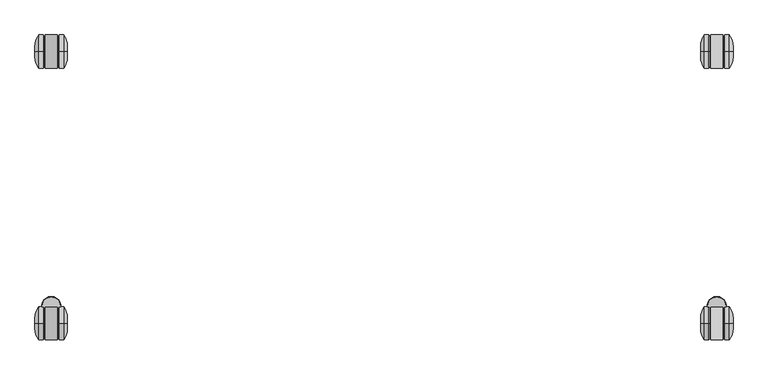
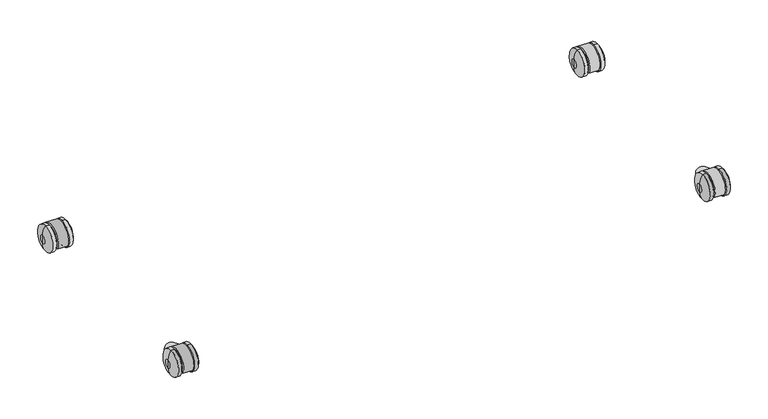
"""IFC4 building model written with IfcOpenShell, lengths in millimetres: furniture geometry, SmithSystem_AM_Table_Education_Elemental_NestAndFold_24D : 24D x 60W."""

from ifc_helpers import new_model, si_unit, point, frame, frame_2d, origin, place, context, project, spatial, polyline, circle_curve, ellipse_curve, trimmed, segment, composite_curve, outline, extrude, source, transform, mapped, element, save
from ifc_brep_helpers import plane_surface, cylinder_surface, revolved_surface, advanced_brep


def furniture_b1fba1ff(model_context):
    return source(origin(), model_context, "Body", "SolidModel", [
        extrude(outline(composite_curve([segment(trimmed(circle_curve(frame_2d((19.6281289, -2.9116942)), 19.8429183), [point((39.2562578, 0.0))], [point((0.0, 0.0))], False, "CARTESIAN"), True, "CONTINUOUS"), segment(polyline([(0.0, 0.0), (39.2562578, 0.0)]), True, "CONTINUOUS")], self_intersect=False)), frame((1475.9610423, -531.202391, 35.4234949), z_axis=(0.0, -0.3384834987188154, 0.9409723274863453), x_axis=(-1.0, 0.0, 0.0)), (0.0, 0.0, 1.0), 5.0798819),
        extrude(outline(composite_curve([segment(polyline([(1388.6658268, 0.0), (1427.9220846, 0.0)]), True, "CONTINUOUS"), segment(trimmed(circle_curve(frame_2d((1408.2939557, -2.9116942)), 19.8429183), [point((1427.9220846, 0.0))], [point((1388.6658268, 0.0))], False, "CARTESIAN"), True, "CONTINUOUS")], self_intersect=False)), frame((1475.9610423, -531.202391, 35.4234949), z_axis=(0.0, -0.3384834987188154, 0.9409723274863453), x_axis=(-1.0, 0.0, 0.0)), (0.0, 0.0, 1.0), 5.0798819),
        extrude(outline(composite_curve([segment(polyline([(-534.3716582, 19.392668), (-597.1174044, 19.392668)]), True, "CONTINUOUS"), segment(trimmed(circle_curve(frame_2d((-565.7445313, 34.2990606)), 34.7341), [point((-597.1174044, 19.392668))], [point((-534.3716582, 19.392668))], False, "CARTESIAN"), True, "CONTINUOUS")], self_intersect=False)), frame((54.6490652, 0.0, 0.0), z_axis=(1.0, 0.0, 0.0), x_axis=(0.0, 1.0, 0.0)), (0.0, 0.0, 1.0), 26.0360428),
        extrude(outline(composite_curve([segment(polyline([(32.7611544, 19.392668), (-29.9845918, 19.392668)]), True, "CONTINUOUS"), segment(trimmed(circle_curve(frame_2d((1.3882813, 34.2990606)), 34.7341), [point((-29.9845918, 19.392668))], [point((32.7611544, 19.392668))], False, "CARTESIAN"), True, "CONTINUOUS")], self_intersect=False)), frame((54.6490652, 0.0, 0.0), z_axis=(1.0, 0.0, 0.0), x_axis=(0.0, 1.0, 0.0)), (0.0, 0.0, 1.0), 26.0360428),
        extrude(outline(composite_curve([segment(polyline([(-534.3716582, 19.392668), (-597.1174044, 19.392668)]), True, "CONTINUOUS"), segment(trimmed(circle_curve(frame_2d((-565.7445313, 34.2990606)), 34.7341), [point((-597.1174044, 19.392668))], [point((-534.3716582, 19.392668))], False, "CARTESIAN"), True, "CONTINUOUS")], self_intersect=False)), frame((1443.314892, 0.0, 0.0), z_axis=(1.0, 0.0, 0.0), x_axis=(0.0, 1.0, 0.0)), (0.0, 0.0, 1.0), 26.0360428),
        extrude(outline(composite_curve([segment(polyline([(32.7611544, 19.392668), (-29.9845918, 19.392668)]), True, "CONTINUOUS"), segment(trimmed(circle_curve(frame_2d((1.3882813, 34.2990606)), 34.7341), [point((-29.9845918, 19.392668))], [point((32.7611544, 19.392668))], False, "CARTESIAN"), True, "CONTINUOUS")], self_intersect=False)), frame((1443.314892, 0.0, 0.0), z_axis=(1.0, 0.0, 0.0), x_axis=(0.0, 1.0, 0.0)), (0.0, 0.0, 1.0), 26.0360428),
        advanced_brep(
        [(1441.7769566, 1.3882813, 34.3697295), (1441.7769566, 1.3882813, 66.3180847), (1441.7769566, 1.3882813, 2.4213744), (1439.6062544, 1.3882813, 69.0331606), (1439.6062544, 1.3882813, -0.2937015), (1430.6015712, 1.3882813, 69.0331606), (1430.6015712, 1.3882813, -0.2937015), (1422.6841685, 1.3882813, 45.9515492), (1422.6841685, 1.3882813, 22.7879099), (1422.6841685, 1.3882813, 34.3697295)],
        [
            (0, 1),
            (1, 2, circle_curve(frame((1441.7769566, 1.3882813, 34.3697295), z_axis=(1.0, 0.0, 0.0), x_axis=(0.0, 0.0, 1.0)), 31.9483552)),
            (2, 0),
            (2, 1, circle_curve(frame((1441.7769566, 1.3882813, 34.3697295), z_axis=(1.0, 0.0, 0.0), x_axis=(0.0, 0.0, 1.0)), 31.9483552)),
            (1, 3),
            (3, 4, circle_curve(frame((1439.6062544, 1.3882813, 34.3697295), z_axis=(1.0, 0.0, 0.0), x_axis=(0.0, 0.0, 1.0)), 34.6634311)),
            (4, 2),
            (4, 3, circle_curve(frame((1439.6062544, 1.3882813, 34.3697295), z_axis=(1.0, 0.0, 0.0), x_axis=(0.0, 0.0, 1.0)), 34.6634311)),
            (3, 5),
            (5, 6, circle_curve(frame((1430.6015712, 1.3882813, 34.3697295), z_axis=(1.0, 0.0, 0.0), x_axis=(0.0, 0.0, 1.0)), 34.6634311)),
            (6, 4),
            (6, 5, circle_curve(frame((1430.6015712, 1.3882813, 34.3697295), z_axis=(1.0, 0.0, 0.0), x_axis=(0.0, 0.0, 1.0)), 34.6634311)),
            (5, 7, circle_curve(frame((1460.2877916, 1.3882813, 45.9515492), z_axis=(0.0, -1.0, 0.0), x_axis=(1.0, 0.0, 0.0)), 37.6036231)),
            (7, 8, circle_curve(frame((1422.6841685, 1.3882813, 34.3697295), z_axis=(1.0, 0.0, 0.0), x_axis=(0.0, 0.0, 1.0)), 11.5818197)),
            (8, 6, circle_curve(frame((1460.2877916, 1.3882813, 22.7879099), z_axis=(0.0, -1.0, 0.0), x_axis=(1.0, 0.0, 0.0)), 37.6036231)),
            (8, 7, circle_curve(frame((1422.6841685, 1.3882813, 34.3697295), z_axis=(1.0, 0.0, 0.0), x_axis=(0.0, 0.0, 1.0)), 11.5818197)),
            (7, 9),
            (9, 8),
        ],
        [
            plane_surface(frame((1441.7769566, 1.3882813, 34.3697295), z_axis=(1.0, 0.0, 0.0), x_axis=(0.0, 0.0, 1.0))),
            revolved_surface(polyline([(1439.6062544, 1.3882813, 69.0331606), (1441.7769566, 1.3882813, 66.3180847)]), (1422.6841685, 1.3882813, 34.3697295), (1.0, 0.0, 0.0)),
            cylinder_surface(frame((1422.6841685, 1.3882813, 34.3697295), z_axis=(1.0, 0.0, 0.0), x_axis=(0.0, 0.0, 1.0)), 34.6634311),
            revolved_surface(trimmed(ellipse_curve(frame((1460.2877916, 1.3882813, 45.9515492), z_axis=(0.0, 1.0, 0.0), x_axis=(1.0, 0.0, 0.0)), 37.6036231, 37.6036231), [point((1422.6841685, 1.3882813, 45.9515492))], [point((1430.6015712, 1.3882813, 69.0331606))], True, "CARTESIAN"), (1422.6841685, 1.3882813, 34.3697295), (1.0, 0.0, 0.0)),
            plane_surface(frame((1422.6841685, 1.3882813, 34.3697295), z_axis=(-1.0, 0.0, 0.0), x_axis=(0.0, 0.0, 1.0))),
        ],
        [
            (0, [[1, 2, 3]]),
            (0, [[-3, 4, -1]]),
            (1, [[-2, 5, 6, 7]]),
            (1, [[-4, -7, 8, -5]]),
            (2, [[-6, 9, 10, 11]]),
            (2, [[-8, -11, 12, -9]]),
            (3, [[-10, 13, 14, 15]]),
            (3, [[-12, -15, 16, -13]]),
            (4, [[-14, 17, 18]]),
            (4, [[-16, -18, -17]]),
        ],
    ),
        advanced_brep(
        [(1490.4247373, 1.3882813, 34.3697295), (1490.4247373, 1.3882813, 45.9515492), (1490.4247373, 1.3882813, 22.7879099), (1482.5073346, 1.3882813, 69.0331606), (1482.5073346, 1.3882813, -0.2937015), (1473.5026514, 1.3882813, 69.0331606), (1473.5026514, 1.3882813, -0.2937015), (1471.3319492, 1.3882813, 66.3180847), (1471.3319492, 1.3882813, 2.4213744), (1471.3319492, 1.3882813, 34.3697295)],
        [
            (0, 1),
            (1, 2, circle_curve(frame((1490.4247373, 1.3882813, 34.3697295), z_axis=(1.0, 0.0, 0.0), x_axis=(0.0, 0.0, 1.0)), 11.5818197)),
            (2, 0),
            (2, 1, circle_curve(frame((1490.4247373, 1.3882813, 34.3697295), z_axis=(1.0, 0.0, 0.0), x_axis=(0.0, 0.0, 1.0)), 11.5818197)),
            (1, 3, circle_curve(frame((1452.8211142, 1.3882813, 45.9515492), z_axis=(0.0, -1.0, 0.0), x_axis=(1.0, 0.0, 0.0)), 37.6036231)),
            (3, 4, circle_curve(frame((1482.5073346, 1.3882813, 34.3697295), z_axis=(1.0, 0.0, 0.0), x_axis=(0.0, 0.0, 1.0)), 34.6634311)),
            (4, 2, circle_curve(frame((1452.8211142, 1.3882813, 22.7879099), z_axis=(0.0, -1.0, 0.0), x_axis=(1.0, 0.0, 0.0)), 37.6036231)),
            (4, 3, circle_curve(frame((1482.5073346, 1.3882813, 34.3697295), z_axis=(1.0, 0.0, 0.0), x_axis=(0.0, 0.0, 1.0)), 34.6634311)),
            (3, 5),
            (5, 6, circle_curve(frame((1473.5026514, 1.3882813, 34.3697295), z_axis=(1.0, 0.0, 0.0), x_axis=(0.0, 0.0, 1.0)), 34.6634311)),
            (6, 4),
            (6, 5, circle_curve(frame((1473.5026514, 1.3882813, 34.3697295), z_axis=(1.0, 0.0, 0.0), x_axis=(0.0, 0.0, 1.0)), 34.6634311)),
            (5, 7),
            (7, 8, circle_curve(frame((1471.3319492, 1.3882813, 34.3697295), z_axis=(1.0, 0.0, 0.0), x_axis=(0.0, 0.0, 1.0)), 31.9483552)),
            (8, 6),
            (8, 7, circle_curve(frame((1471.3319492, 1.3882813, 34.3697295), z_axis=(1.0, 0.0, 0.0), x_axis=(0.0, 0.0, 1.0)), 31.9483552)),
            (7, 9),
            (9, 8),
        ],
        [
            plane_surface(frame((1490.4247373, 1.3882813, 34.3697295), z_axis=(1.0, 0.0, 0.0), x_axis=(0.0, 0.0, 1.0))),
            revolved_surface(trimmed(ellipse_curve(frame((1452.8211142, 1.3882813, 45.9515492), z_axis=(0.0, 1.0, 0.0), x_axis=(1.0, 0.0, 0.0)), 37.6036231, 37.6036231), [point((1482.5073346, 1.3882813, 69.0331606))], [point((1490.4247373, 1.3882813, 45.9515492))], True, "CARTESIAN"), (1422.6841685, 1.3882813, 34.3697295), (1.0, 0.0, 0.0)),
            cylinder_surface(frame((1422.6841685, 1.3882813, 34.3697295), z_axis=(1.0, 0.0, 0.0), x_axis=(0.0, 0.0, 1.0)), 34.6634311),
            revolved_surface(polyline([(1471.3319492, 1.3882813, 66.3180847), (1473.5026514, 1.3882813, 69.0331606)]), (1422.6841685, 1.3882813, 34.3697295), (1.0, 0.0, 0.0)),
            plane_surface(frame((1471.3319492, 1.3882813, 34.3697295), z_axis=(-1.0, 0.0, 0.0), x_axis=(0.0, 0.0, 1.0))),
        ],
        [
            (0, [[1, 2, 3]]),
            (0, [[-3, 4, -1]]),
            (1, [[-2, 5, 6, 7]]),
            (1, [[-4, -7, 8, -5]]),
            (2, [[-6, 9, 10, 11]]),
            (2, [[-8, -11, 12, -9]]),
            (3, [[-10, 13, 14, 15]]),
            (3, [[-12, -15, 16, -13]]),
            (4, [[-14, 17, 18]]),
            (4, [[-16, -18, -17]]),
        ],
    ),
        advanced_brep(
        [(101.3158315, 1.3882813, 34.3697295), (101.3158315, 1.3882813, 45.9515492), (101.3158315, 1.3882813, 22.7879099), (93.3984288, 1.3882813, 69.0331606), (93.3984288, 1.3882813, -0.2937015), (84.3937456, 1.3882813, 69.0331606), (84.3937456, 1.3882813, -0.2937015), (82.2230434, 1.3882813, 66.3180847), (82.2230434, 1.3882813, 2.4213744), (82.2230434, 1.3882813, 34.3697295)],
        [
            (0, 1),
            (1, 2, circle_curve(frame((101.3158315, 1.3882813, 34.3697295), z_axis=(1.0, 0.0, 0.0), x_axis=(0.0, 0.0, 1.0)), 11.5818197)),
            (2, 0),
            (2, 1, circle_curve(frame((101.3158315, 1.3882813, 34.3697295), z_axis=(1.0, 0.0, 0.0), x_axis=(0.0, 0.0, 1.0)), 11.5818197)),
            (1, 3, circle_curve(frame((63.7122084, 1.3882813, 45.9515492), z_axis=(0.0, -1.0, 0.0), x_axis=(1.0, 0.0, 0.0)), 37.6036231)),
            (3, 4, circle_curve(frame((93.3984288, 1.3882813, 34.3697295), z_axis=(1.0, 0.0, 0.0), x_axis=(0.0, 0.0, 1.0)), 34.6634311)),
            (4, 2, circle_curve(frame((63.7122084, 1.3882813, 22.7879099), z_axis=(0.0, -1.0, 0.0), x_axis=(1.0, 0.0, 0.0)), 37.6036231)),
            (4, 3, circle_curve(frame((93.3984288, 1.3882813, 34.3697295), z_axis=(1.0, 0.0, 0.0), x_axis=(0.0, 0.0, 1.0)), 34.6634311)),
            (3, 5),
            (5, 6, circle_curve(frame((84.3937456, 1.3882813, 34.3697295), z_axis=(1.0, 0.0, 0.0), x_axis=(0.0, 0.0, 1.0)), 34.6634311)),
            (6, 4),
            (6, 5, circle_curve(frame((84.3937456, 1.3882813, 34.3697295), z_axis=(1.0, 0.0, 0.0), x_axis=(0.0, 0.0, 1.0)), 34.6634311)),
            (5, 7),
            (7, 8, circle_curve(frame((82.2230434, 1.3882813, 34.3697295), z_axis=(1.0, 0.0, 0.0), x_axis=(0.0, 0.0, 1.0)), 31.9483552)),
            (8, 6),
            (8, 7, circle_curve(frame((82.2230434, 1.3882813, 34.3697295), z_axis=(1.0, 0.0, 0.0), x_axis=(0.0, 0.0, 1.0)), 31.9483552)),
            (7, 9),
            (9, 8),
        ],
        [
            plane_surface(frame((101.3158315, 1.3882813, 34.3697295), z_axis=(1.0, 0.0, 0.0), x_axis=(0.0, 0.0, 1.0))),
            revolved_surface(trimmed(ellipse_curve(frame((63.7122084, 1.3882813, 45.9515492), z_axis=(0.0, 1.0, 0.0), x_axis=(1.0, 0.0, 0.0)), 37.6036231, 37.6036231), [point((93.3984288, 1.3882813, 69.0331606))], [point((101.3158315, 1.3882813, 45.9515492))], True, "CARTESIAN"), (1422.6841685, 1.3882813, 34.3697295), (1.0, 0.0, 0.0)),
            cylinder_surface(frame((1422.6841685, 1.3882813, 34.3697295), z_axis=(1.0, 0.0, 0.0), x_axis=(0.0, 0.0, 1.0)), 34.6634311),
            revolved_surface(polyline([(82.2230434, 1.3882813, 66.3180847), (84.3937456, 1.3882813, 69.0331606)]), (1422.6841685, 1.3882813, 34.3697295), (1.0, 0.0, 0.0)),
            plane_surface(frame((82.2230434, 1.3882813, 34.3697295), z_axis=(-1.0, 0.0, 0.0), x_axis=(0.0, 0.0, 1.0))),
        ],
        [
            (0, [[1, 2, 3]]),
            (0, [[-3, 4, -1]]),
            (1, [[-2, 5, 6, 7]]),
            (1, [[-4, -7, 8, -5]]),
            (2, [[-6, 9, 10, 11]]),
            (2, [[-8, -11, 12, -9]]),
            (3, [[-10, 13, 14, 15]]),
            (3, [[-12, -15, 16, -13]]),
            (4, [[-14, 17, 18]]),
            (4, [[-16, -18, -17]]),
        ],
    ),
        advanced_brep(
        [(52.6680508, 1.3882813, 34.3697295), (52.6680508, 1.3882813, 66.3180847), (52.6680508, 1.3882813, 2.4213744), (50.4973486, 1.3882813, 69.0331606), (50.4973486, 1.3882813, -0.2937015), (41.4926654, 1.3882813, 69.0331606), (41.4926654, 1.3882813, -0.2937015), (33.5752627, 1.3882813, 45.9515492), (33.5752627, 1.3882813, 22.7879099), (33.5752627, 1.3882813, 34.3697295)],
        [
            (0, 1),
            (1, 2, circle_curve(frame((52.6680508, 1.3882813, 34.3697295), z_axis=(1.0, 0.0, 0.0), x_axis=(0.0, 0.0, 1.0)), 31.9483552)),
            (2, 0),
            (2, 1, circle_curve(frame((52.6680508, 1.3882813, 34.3697295), z_axis=(1.0, 0.0, 0.0), x_axis=(0.0, 0.0, 1.0)), 31.9483552)),
            (1, 3),
            (3, 4, circle_curve(frame((50.4973486, 1.3882813, 34.3697295), z_axis=(1.0, 0.0, 0.0), x_axis=(0.0, 0.0, 1.0)), 34.6634311)),
            (4, 2),
            (4, 3, circle_curve(frame((50.4973486, 1.3882813, 34.3697295), z_axis=(1.0, 0.0, 0.0), x_axis=(0.0, 0.0, 1.0)), 34.6634311)),
            (3, 5),
            (5, 6, circle_curve(frame((41.4926654, 1.3882813, 34.3697295), z_axis=(1.0, 0.0, 0.0), x_axis=(0.0, 0.0, 1.0)), 34.6634311)),
            (6, 4),
            (6, 5, circle_curve(frame((41.4926654, 1.3882813, 34.3697295), z_axis=(1.0, 0.0, 0.0), x_axis=(0.0, 0.0, 1.0)), 34.6634311)),
            (5, 7, circle_curve(frame((71.1788858, 1.3882813, 45.9515492), z_axis=(0.0, -1.0, 0.0), x_axis=(1.0, 0.0, 0.0)), 37.6036231)),
            (7, 8, circle_curve(frame((33.5752627, 1.3882813, 34.3697295), z_axis=(1.0, 0.0, 0.0), x_axis=(0.0, 0.0, 1.0)), 11.5818197)),
            (8, 6, circle_curve(frame((71.1788858, 1.3882813, 22.7879099), z_axis=(0.0, -1.0, 0.0), x_axis=(1.0, 0.0, 0.0)), 37.6036231)),
            (8, 7, circle_curve(frame((33.5752627, 1.3882813, 34.3697295), z_axis=(1.0, 0.0, 0.0), x_axis=(0.0, 0.0, 1.0)), 11.5818197)),
            (7, 9),
            (9, 8),
        ],
        [
            plane_surface(frame((52.6680508, 1.3882813, 34.3697295), z_axis=(1.0, 0.0, 0.0), x_axis=(0.0, 0.0, 1.0))),
            revolved_surface(polyline([(50.4973486, 1.3882813, 69.0331606), (52.6680508, 1.3882813, 66.3180847)]), (1422.6841685, 1.3882813, 34.3697295), (1.0, 0.0, 0.0)),
            cylinder_surface(frame((1422.6841685, 1.3882813, 34.3697295), z_axis=(1.0, 0.0, 0.0), x_axis=(0.0, 0.0, 1.0)), 34.6634311),
            revolved_surface(trimmed(ellipse_curve(frame((71.1788858, 1.3882813, 45.9515492), z_axis=(0.0, 1.0, 0.0), x_axis=(1.0, 0.0, 0.0)), 37.6036231, 37.6036231), [point((33.5752627, 1.3882813, 45.9515492))], [point((41.4926654, 1.3882813, 69.0331606))], True, "CARTESIAN"), (1422.6841685, 1.3882813, 34.3697295), (1.0, 0.0, 0.0)),
            plane_surface(frame((33.5752627, 1.3882813, 34.3697295), z_axis=(-1.0, 0.0, 0.0), x_axis=(0.0, 0.0, 1.0))),
        ],
        [
            (0, [[1, 2, 3]]),
            (0, [[-3, 4, -1]]),
            (1, [[-2, 5, 6, 7]]),
            (1, [[-4, -7, 8, -5]]),
            (2, [[-6, 9, 10, 11]]),
            (2, [[-8, -11, 12, -9]]),
            (3, [[-10, 13, 14, 15]]),
            (3, [[-12, -15, 16, -13]]),
            (4, [[-14, 17, 18]]),
            (4, [[-16, -18, -17]]),
        ],
    ),
        advanced_brep(
        [(1441.7769566, -565.7453125, 2.4213744), (1441.7769566, -565.7453125, 66.3180847), (1441.7769566, -565.7453125, 34.3697295), (1439.6062544, -565.7453125, -0.2937015), (1439.6062544, -565.7453125, 69.0331606), (1430.6015712, -565.7453125, -0.2937015), (1430.6015712, -565.7453125, 69.0331606), (1422.6841685, -565.7453125, 22.7879099), (1422.6841685, -565.7453125, 45.9515492), (1422.6841685, -565.7453125, 34.3697295)],
        [
            (0, 1, circle_curve(frame((1441.7769566, -565.7453125, 34.3697295), z_axis=(1.0, 0.0, 0.0), x_axis=(0.0, 0.0, 1.0)), 31.9483552)),
            (1, 2),
            (2, 0),
            (1, 0, circle_curve(frame((1441.7769566, -565.7453125, 34.3697295), z_axis=(1.0, 0.0, 0.0), x_axis=(0.0, 0.0, 1.0)), 31.9483552)),
            (3, 4, circle_curve(frame((1439.6062544, -565.7453125, 34.3697295), z_axis=(1.0, 0.0, 0.0), x_axis=(0.0, 0.0, 1.0)), 34.6634311)),
            (4, 1),
            (0, 3),
            (4, 3, circle_curve(frame((1439.6062544, -565.7453125, 34.3697295), z_axis=(1.0, 0.0, 0.0), x_axis=(0.0, 0.0, 1.0)), 34.6634311)),
            (5, 6, circle_curve(frame((1430.6015712, -565.7453125, 34.3697295), z_axis=(1.0, 0.0, 0.0), x_axis=(0.0, 0.0, 1.0)), 34.6634311)),
            (6, 4),
            (3, 5),
            (6, 5, circle_curve(frame((1430.6015712, -565.7453125, 34.3697295), z_axis=(1.0, 0.0, 0.0), x_axis=(0.0, 0.0, 1.0)), 34.6634311)),
            (7, 8, circle_curve(frame((1422.6841685, -565.7453125, 34.3697295), z_axis=(1.0, 0.0, 0.0), x_axis=(0.0, 0.0, 1.0)), 11.5818197)),
            (8, 6, circle_curve(frame((1460.2877916, -565.7453125, 45.9515492), z_axis=(0.0, 1.0, 0.0), x_axis=(1.0, 0.0, 0.0)), 37.6036231)),
            (5, 7, circle_curve(frame((1460.2877916, -565.7453125, 22.7879099), z_axis=(0.0, 1.0, 0.0), x_axis=(1.0, 0.0, 0.0)), 37.6036231)),
            (8, 7, circle_curve(frame((1422.6841685, -565.7453125, 34.3697295), z_axis=(1.0, 0.0, 0.0), x_axis=(0.0, 0.0, 1.0)), 11.5818197)),
            (9, 8),
            (7, 9),
        ],
        [
            plane_surface(frame((1441.7769566, -565.7453125, 34.3697295), z_axis=(1.0, 0.0, 0.0), x_axis=(0.0, 0.0, 1.0))),
            revolved_surface(polyline([(1441.7769566, -565.7453125, 66.3180847), (1439.6062544, -565.7453125, 69.0331606)]), (1422.6841685, -565.7453125, 34.3697295), (-1.0, 0.0, 0.0)),
            cylinder_surface(frame((1422.6841685, -565.7453125, 34.3697295), z_axis=(-1.0, 0.0, 0.0), x_axis=(0.0, 0.0, 1.0)), 34.6634311),
            revolved_surface(trimmed(ellipse_curve(frame((1460.2877916, -565.7453125, 45.9515492), z_axis=(0.0, -1.0, 0.0), x_axis=(1.0, 0.0, 0.0)), 37.6036231, 37.6036231), [point((1430.6015712, -565.7453125, 69.0331606))], [point((1422.6841685, -565.7453125, 45.9515492))], True, "CARTESIAN"), (1422.6841685, -565.7453125, 34.3697295), (-1.0, 0.0, 0.0)),
            plane_surface(frame((1422.6841685, -565.7453125, 34.3697295), z_axis=(-1.0, 0.0, 0.0), x_axis=(0.0, 0.0, 1.0))),
        ],
        [
            (0, [[1, 2, 3]]),
            (0, [[4, -3, -2]]),
            (1, [[5, 6, -1, 7]]),
            (1, [[8, -7, -4, -6]]),
            (2, [[9, 10, -5, 11]]),
            (2, [[12, -11, -8, -10]]),
            (3, [[13, 14, -9, 15]]),
            (3, [[16, -15, -12, -14]]),
            (4, [[17, -13, 18]]),
            (4, [[-18, -16, -17]]),
        ],
    ),
        advanced_brep(
        [(1490.4247373, -565.7453125, 22.7879099), (1490.4247373, -565.7453125, 45.9515492), (1490.4247373, -565.7453125, 34.3697295), (1482.5073346, -565.7453125, -0.2937015), (1482.5073346, -565.7453125, 69.0331606), (1473.5026514, -565.7453125, -0.2937015), (1473.5026514, -565.7453125, 69.0331606), (1471.3319492, -565.7453125, 2.4213744), (1471.3319492, -565.7453125, 66.3180847), (1471.3319492, -565.7453125, 34.3697295)],
        [
            (0, 1, circle_curve(frame((1490.4247373, -565.7453125, 34.3697295), z_axis=(1.0, 0.0, 0.0), x_axis=(0.0, 0.0, 1.0)), 11.5818197)),
            (1, 2),
            (2, 0),
            (1, 0, circle_curve(frame((1490.4247373, -565.7453125, 34.3697295), z_axis=(1.0, 0.0, 0.0), x_axis=(0.0, 0.0, 1.0)), 11.5818197)),
            (3, 4, circle_curve(frame((1482.5073346, -565.7453125, 34.3697295), z_axis=(1.0, 0.0, 0.0), x_axis=(0.0, 0.0, 1.0)), 34.6634311)),
            (4, 1, circle_curve(frame((1452.8211142, -565.7453125, 45.9515492), z_axis=(0.0, 1.0, 0.0), x_axis=(1.0, 0.0, 0.0)), 37.6036231)),
            (0, 3, circle_curve(frame((1452.8211142, -565.7453125, 22.7879099), z_axis=(0.0, 1.0, 0.0), x_axis=(1.0, 0.0, 0.0)), 37.6036231)),
            (4, 3, circle_curve(frame((1482.5073346, -565.7453125, 34.3697295), z_axis=(1.0, 0.0, 0.0), x_axis=(0.0, 0.0, 1.0)), 34.6634311)),
            (5, 6, circle_curve(frame((1473.5026514, -565.7453125, 34.3697295), z_axis=(1.0, 0.0, 0.0), x_axis=(0.0, 0.0, 1.0)), 34.6634311)),
            (6, 4),
            (3, 5),
            (6, 5, circle_curve(frame((1473.5026514, -565.7453125, 34.3697295), z_axis=(1.0, 0.0, 0.0), x_axis=(0.0, 0.0, 1.0)), 34.6634311)),
            (7, 8, circle_curve(frame((1471.3319492, -565.7453125, 34.3697295), z_axis=(1.0, 0.0, 0.0), x_axis=(0.0, 0.0, 1.0)), 31.9483552)),
            (8, 6),
            (5, 7),
            (8, 7, circle_curve(frame((1471.3319492, -565.7453125, 34.3697295), z_axis=(1.0, 0.0, 0.0), x_axis=(0.0, 0.0, 1.0)), 31.9483552)),
            (9, 8),
            (7, 9),
        ],
        [
            plane_surface(frame((1490.4247373, -565.7453125, 34.3697295), z_axis=(1.0, 0.0, 0.0), x_axis=(0.0, 0.0, 1.0))),
            revolved_surface(trimmed(ellipse_curve(frame((1452.8211142, -565.7453125, 45.9515492), z_axis=(0.0, -1.0, 0.0), x_axis=(1.0, 0.0, 0.0)), 37.6036231, 37.6036231), [point((1490.4247373, -565.7453125, 45.9515492))], [point((1482.5073346, -565.7453125, 69.0331606))], True, "CARTESIAN"), (1422.6841685, -565.7453125, 34.3697295), (-1.0, 0.0, 0.0)),
            cylinder_surface(frame((1422.6841685, -565.7453125, 34.3697295), z_axis=(-1.0, 0.0, 0.0), x_axis=(0.0, 0.0, 1.0)), 34.6634311),
            revolved_surface(polyline([(1473.5026514, -565.7453125, 69.0331606), (1471.3319492, -565.7453125, 66.3180847)]), (1422.6841685, -565.7453125, 34.3697295), (-1.0, 0.0, 0.0)),
            plane_surface(frame((1471.3319492, -565.7453125, 34.3697295), z_axis=(-1.0, 0.0, 0.0), x_axis=(0.0, 0.0, 1.0))),
        ],
        [
            (0, [[1, 2, 3]]),
            (0, [[4, -3, -2]]),
            (1, [[5, 6, -1, 7]]),
            (1, [[8, -7, -4, -6]]),
            (2, [[9, 10, -5, 11]]),
            (2, [[12, -11, -8, -10]]),
            (3, [[13, 14, -9, 15]]),
            (3, [[16, -15, -12, -14]]),
            (4, [[17, -13, 18]]),
            (4, [[-18, -16, -17]]),
        ],
    ),
        advanced_brep(
        [(101.3158315, -565.7453125, 22.7879099), (101.3158315, -565.7453125, 45.9515492), (101.3158315, -565.7453125, 34.3697295), (93.3984288, -565.7453125, -0.2937015), (93.3984288, -565.7453125, 69.0331606), (84.3937456, -565.7453125, -0.2937015), (84.3937456, -565.7453125, 69.0331606), (82.2230434, -565.7453125, 2.4213744), (82.2230434, -565.7453125, 66.3180847), (82.2230434, -565.7453125, 34.3697295)],
        [
            (0, 1, circle_curve(frame((101.3158315, -565.7453125, 34.3697295), z_axis=(1.0, 0.0, 0.0), x_axis=(0.0, 0.0, 1.0)), 11.5818197)),
            (1, 2),
            (2, 0),
            (1, 0, circle_curve(frame((101.3158315, -565.7453125, 34.3697295), z_axis=(1.0, 0.0, 0.0), x_axis=(0.0, 0.0, 1.0)), 11.5818197)),
            (3, 4, circle_curve(frame((93.3984288, -565.7453125, 34.3697295), z_axis=(1.0, 0.0, 0.0), x_axis=(0.0, 0.0, 1.0)), 34.6634311)),
            (4, 1, circle_curve(frame((63.7122084, -565.7453125, 45.9515492), z_axis=(0.0, 1.0, 0.0), x_axis=(1.0, 0.0, 0.0)), 37.6036231)),
            (0, 3, circle_curve(frame((63.7122084, -565.7453125, 22.7879099), z_axis=(0.0, 1.0, 0.0), x_axis=(1.0, 0.0, 0.0)), 37.6036231)),
            (4, 3, circle_curve(frame((93.3984288, -565.7453125, 34.3697295), z_axis=(1.0, 0.0, 0.0), x_axis=(0.0, 0.0, 1.0)), 34.6634311)),
            (5, 6, circle_curve(frame((84.3937456, -565.7453125, 34.3697295), z_axis=(1.0, 0.0, 0.0), x_axis=(0.0, 0.0, 1.0)), 34.6634311)),
            (6, 4),
            (3, 5),
            (6, 5, circle_curve(frame((84.3937456, -565.7453125, 34.3697295), z_axis=(1.0, 0.0, 0.0), x_axis=(0.0, 0.0, 1.0)), 34.6634311)),
            (7, 8, circle_curve(frame((82.2230434, -565.7453125, 34.3697295), z_axis=(1.0, 0.0, 0.0), x_axis=(0.0, 0.0, 1.0)), 31.9483552)),
            (8, 6),
            (5, 7),
            (8, 7, circle_curve(frame((82.2230434, -565.7453125, 34.3697295), z_axis=(1.0, 0.0, 0.0), x_axis=(0.0, 0.0, 1.0)), 31.9483552)),
            (9, 8),
            (7, 9),
        ],
        [
            plane_surface(frame((101.3158315, -565.7453125, 34.3697295), z_axis=(1.0, 0.0, 0.0), x_axis=(0.0, 0.0, 1.0))),
            revolved_surface(trimmed(ellipse_curve(frame((63.7122084, -565.7453125, 45.9515492), z_axis=(0.0, -1.0, 0.0), x_axis=(1.0, 0.0, 0.0)), 37.6036231, 37.6036231), [point((101.3158315, -565.7453125, 45.9515492))], [point((93.3984288, -565.7453125, 69.0331606))], True, "CARTESIAN"), (1422.6841685, -565.7453125, 34.3697295), (-1.0, 0.0, 0.0)),
            cylinder_surface(frame((1422.6841685, -565.7453125, 34.3697295), z_axis=(-1.0, 0.0, 0.0), x_axis=(0.0, 0.0, 1.0)), 34.6634311),
            revolved_surface(polyline([(84.3937456, -565.7453125, 69.0331606), (82.2230434, -565.7453125, 66.3180847)]), (1422.6841685, -565.7453125, 34.3697295), (-1.0, 0.0, 0.0)),
            plane_surface(frame((82.2230434, -565.7453125, 34.3697295), z_axis=(-1.0, 0.0, 0.0), x_axis=(0.0, 0.0, 1.0))),
        ],
        [
            (0, [[1, 2, 3]]),
            (0, [[4, -3, -2]]),
            (1, [[5, 6, -1, 7]]),
            (1, [[8, -7, -4, -6]]),
            (2, [[9, 10, -5, 11]]),
            (2, [[12, -11, -8, -10]]),
            (3, [[13, 14, -9, 15]]),
            (3, [[16, -15, -12, -14]]),
            (4, [[17, -13, 18]]),
            (4, [[-18, -16, -17]]),
        ],
    ),
        advanced_brep(
        [(52.6680508, -565.7453125, 2.4213744), (52.6680508, -565.7453125, 66.3180847), (52.6680508, -565.7453125, 34.3697295), (50.4973486, -565.7453125, -0.2937015), (50.4973486, -565.7453125, 69.0331606), (41.4926654, -565.7453125, -0.2937015), (41.4926654, -565.7453125, 69.0331606), (33.5752627, -565.7453125, 22.7879099), (33.5752627, -565.7453125, 45.9515492), (33.5752627, -565.7453125, 34.3697295)],
        [
            (0, 1, circle_curve(frame((52.6680508, -565.7453125, 34.3697295), z_axis=(1.0, 0.0, 0.0), x_axis=(0.0, 0.0, 1.0)), 31.9483552)),
            (1, 2),
            (2, 0),
            (1, 0, circle_curve(frame((52.6680508, -565.7453125, 34.3697295), z_axis=(1.0, 0.0, 0.0), x_axis=(0.0, 0.0, 1.0)), 31.9483552)),
            (3, 4, circle_curve(frame((50.4973486, -565.7453125, 34.3697295), z_axis=(1.0, 0.0, 0.0), x_axis=(0.0, 0.0, 1.0)), 34.6634311)),
            (4, 1),
            (0, 3),
            (4, 3, circle_curve(frame((50.4973486, -565.7453125, 34.3697295), z_axis=(1.0, 0.0, 0.0), x_axis=(0.0, 0.0, 1.0)), 34.6634311)),
            (5, 6, circle_curve(frame((41.4926654, -565.7453125, 34.3697295), z_axis=(1.0, 0.0, 0.0), x_axis=(0.0, 0.0, 1.0)), 34.6634311)),
            (6, 4),
            (3, 5),
            (6, 5, circle_curve(frame((41.4926654, -565.7453125, 34.3697295), z_axis=(1.0, 0.0, 0.0), x_axis=(0.0, 0.0, 1.0)), 34.6634311)),
            (7, 8, circle_curve(frame((33.5752627, -565.7453125, 34.3697295), z_axis=(1.0, 0.0, 0.0), x_axis=(0.0, 0.0, 1.0)), 11.5818197)),
            (8, 6, circle_curve(frame((71.1788858, -565.7453125, 45.9515492), z_axis=(0.0, 1.0, 0.0), x_axis=(1.0, 0.0, 0.0)), 37.6036231)),
            (5, 7, circle_curve(frame((71.1788858, -565.7453125, 22.7879099), z_axis=(0.0, 1.0, 0.0), x_axis=(1.0, 0.0, 0.0)), 37.6036231)),
            (8, 7, circle_curve(frame((33.5752627, -565.7453125, 34.3697295), z_axis=(1.0, 0.0, 0.0), x_axis=(0.0, 0.0, 1.0)), 11.5818197)),
            (9, 8),
            (7, 9),
        ],
        [
            plane_surface(frame((52.6680508, -565.7453125, 34.3697295), z_axis=(1.0, 0.0, 0.0), x_axis=(0.0, 0.0, 1.0))),
            revolved_surface(polyline([(52.6680508, -565.7453125, 66.3180847), (50.4973486, -565.7453125, 69.0331606)]), (1422.6841685, -565.7453125, 34.3697295), (-1.0, 0.0, 0.0)),
            cylinder_surface(frame((1422.6841685, -565.7453125, 34.3697295), z_axis=(-1.0, 0.0, 0.0), x_axis=(0.0, 0.0, 1.0)), 34.6634311),
            revolved_surface(trimmed(ellipse_curve(frame((71.1788858, -565.7453125, 45.9515492), z_axis=(0.0, -1.0, 0.0), x_axis=(1.0, 0.0, 0.0)), 37.6036231, 37.6036231), [point((41.4926654, -565.7453125, 69.0331606))], [point((33.5752627, -565.7453125, 45.9515492))], True, "CARTESIAN"), (1422.6841685, -565.7453125, 34.3697295), (-1.0, 0.0, 0.0)),
            plane_surface(frame((33.5752627, -565.7453125, 34.3697295), z_axis=(-1.0, 0.0, 0.0), x_axis=(0.0, 0.0, 1.0))),
        ],
        [
            (0, [[1, 2, 3]]),
            (0, [[4, -3, -2]]),
            (1, [[5, 6, -1, 7]]),
            (1, [[8, -7, -4, -6]]),
            (2, [[9, 10, -5, 11]]),
            (2, [[12, -11, -8, -10]]),
            (3, [[13, 14, -9, 15]]),
            (3, [[16, -15, -12, -14]]),
            (4, [[17, -13, 18]]),
            (4, [[-18, -16, -17]]),
        ],
    ),
    ])


if __name__ == "__main__":
    model = new_model("IFC4")
    model_context = context("Model", 3, world=origin())
    ifc_project = project(units=[si_unit("LENGTHUNIT", "METRE", prefix="MILLI")], contexts=[model_context])
    site = spatial("IfcSite", under=ifc_project)
    building = spatial("IfcBuilding", under=site)
    placement = place(None, origin())
    furniture_shape = furniture_b1fba1ff(model_context)
    element("IfcFurniture", 1, ObjectType="SmithSystem_AM_Table_Education_Elemental_NestAndFold_24D : 24D x 60W", at=placement, inside=building, context=model_context, shape_type="MappedRepresentation", body=[
        mapped(furniture_shape, transform((0.0, 0.0, 0.0), x_axis=(1.0, 0.0, 0.0), y_axis=(0.0, 1.0, 0.0), z_axis=(0.0, 0.0, 1.0))),
    ])
    save(model, "model.ifc")
